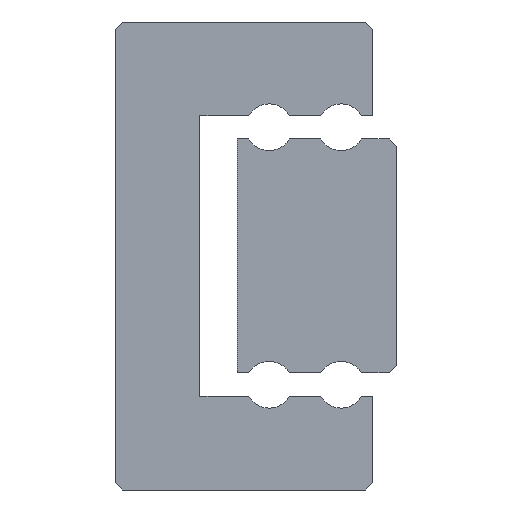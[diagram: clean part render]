
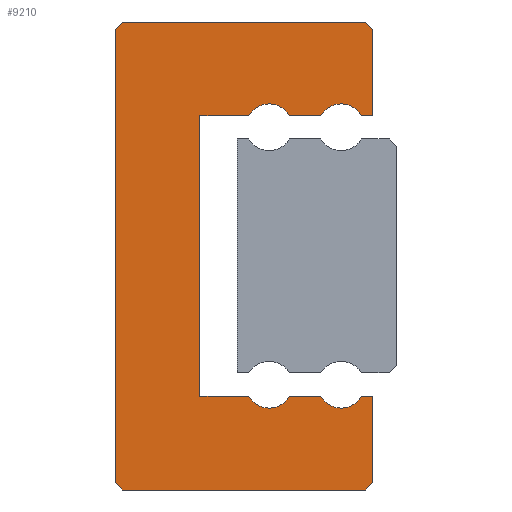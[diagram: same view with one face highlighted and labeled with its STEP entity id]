
A CAD part, left-side view. The second image highlights one B-rep face of the part: STEP entity #9210.
In plain terms, the highlighted planar face has unit normal (-1, 0, 0).
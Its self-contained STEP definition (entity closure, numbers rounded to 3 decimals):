
#294=CIRCLE('',#9994,0.5);
#296=CIRCLE('',#9998,0.5);
#302=CIRCLE('',#10008,0.5);
#304=CIRCLE('',#10012,0.5);
#1538=ORIENTED_EDGE('',*,*,#3866,.F.);
#1539=ORIENTED_EDGE('',*,*,#4314,.F.);
#1540=ORIENTED_EDGE('',*,*,#4311,.F.);
#1541=ORIENTED_EDGE('',*,*,#4304,.F.);
#1542=ORIENTED_EDGE('',*,*,#4301,.F.);
#1543=ORIENTED_EDGE('',*,*,#4298,.F.);
#1544=ORIENTED_EDGE('',*,*,#4295,.F.);
#1545=ORIENTED_EDGE('',*,*,#4292,.F.);
#1546=ORIENTED_EDGE('',*,*,#4289,.T.);
#1547=ORIENTED_EDGE('',*,*,#4286,.F.);
#1548=ORIENTED_EDGE('',*,*,#4283,.T.);
#1549=ORIENTED_EDGE('',*,*,#4280,.F.);
#1550=ORIENTED_EDGE('',*,*,#4277,.F.);
#1551=ORIENTED_EDGE('',*,*,#4270,.F.);
#1552=ORIENTED_EDGE('',*,*,#4267,.T.);
#1553=ORIENTED_EDGE('',*,*,#4264,.F.);
#1554=ORIENTED_EDGE('',*,*,#4261,.T.);
#1555=ORIENTED_EDGE('',*,*,#4258,.F.);
#1556=ORIENTED_EDGE('',*,*,#4255,.F.);
#1557=ORIENTED_EDGE('',*,*,#4252,.F.);
#3866=EDGE_CURVE('',#5284,#5285,#6246,.T.);
#4252=EDGE_CURVE('',#5285,#5670,#6384,.T.);
#4255=EDGE_CURVE('',#5670,#5672,#6387,.T.);
#4258=EDGE_CURVE('',#5672,#5674,#6390,.T.);
#4261=EDGE_CURVE('',#5676,#5674,#294,.T.);
#4264=EDGE_CURVE('',#5676,#5678,#6394,.T.);
#4267=EDGE_CURVE('',#5680,#5678,#296,.T.);
#4270=EDGE_CURVE('',#5680,#5682,#6398,.T.);
#4277=EDGE_CURVE('',#5682,#5688,#6401,.T.);
#4280=EDGE_CURVE('',#5688,#5690,#6404,.T.);
#4283=EDGE_CURVE('',#5692,#5690,#302,.T.);
#4286=EDGE_CURVE('',#5692,#5694,#6408,.T.);
#4289=EDGE_CURVE('',#5696,#5694,#304,.T.);
#4292=EDGE_CURVE('',#5696,#5698,#6412,.T.);
#4295=EDGE_CURVE('',#5698,#5700,#6415,.T.);
#4298=EDGE_CURVE('',#5700,#5702,#6418,.T.);
#4301=EDGE_CURVE('',#5702,#5704,#6421,.T.);
#4304=EDGE_CURVE('',#5704,#5706,#6424,.T.);
#4311=EDGE_CURVE('',#5706,#5712,#6427,.T.);
#4314=EDGE_CURVE('',#5712,#5284,#6430,.T.);
#5284=VERTEX_POINT('',#14021);
#5285=VERTEX_POINT('',#14022);
#5670=VERTEX_POINT('',#14794);
#5672=VERTEX_POINT('',#14800);
#5674=VERTEX_POINT('',#14806);
#5676=VERTEX_POINT('',#14812);
#5678=VERTEX_POINT('',#14818);
#5680=VERTEX_POINT('',#14824);
#5682=VERTEX_POINT('',#14830);
#5688=VERTEX_POINT('',#14844);
#5690=VERTEX_POINT('',#14850);
#5692=VERTEX_POINT('',#14856);
#5694=VERTEX_POINT('',#14862);
#5696=VERTEX_POINT('',#14868);
#5698=VERTEX_POINT('',#14874);
#5700=VERTEX_POINT('',#14880);
#5702=VERTEX_POINT('',#14886);
#5704=VERTEX_POINT('',#14892);
#5706=VERTEX_POINT('',#14898);
#5712=VERTEX_POINT('',#14912);
#6246=LINE('',#14020,#7062);
#6384=LINE('',#14793,#7200);
#6387=LINE('',#14799,#7203);
#6390=LINE('',#14805,#7206);
#6394=LINE('',#14817,#7210);
#6398=LINE('',#14829,#7214);
#6401=LINE('',#14843,#7217);
#6404=LINE('',#14849,#7220);
#6408=LINE('',#14861,#7224);
#6412=LINE('',#14873,#7228);
#6415=LINE('',#14879,#7231);
#6418=LINE('',#14885,#7234);
#6421=LINE('',#14891,#7237);
#6424=LINE('',#14897,#7240);
#6427=LINE('',#14911,#7243);
#6430=LINE('',#14917,#7246);
#7062=VECTOR('',#10941,1000.);
#7200=VECTOR('',#11577,1000.);
#7203=VECTOR('',#11582,1000.);
#7206=VECTOR('',#11587,1000.);
#7210=VECTOR('',#11599,1000.);
#7214=VECTOR('',#11611,1000.);
#7217=VECTOR('',#11624,1000.);
#7220=VECTOR('',#11629,1000.);
#7224=VECTOR('',#11641,1000.);
#7228=VECTOR('',#11653,1000.);
#7231=VECTOR('',#11658,1000.);
#7234=VECTOR('',#11663,1000.);
#7237=VECTOR('',#11668,1000.);
#7240=VECTOR('',#11673,1000.);
#7243=VECTOR('',#11686,1000.);
#7246=VECTOR('',#11691,1000.);
#7918=EDGE_LOOP('',(#1538,#1539,#1540,#1541,#1542,#1543,#1544,#1545,#1546,
#1547,#1548,#1549,#1550,#1551,#1552,#1553,#1554,#1555,#1556,#1557));
#8480=FACE_BOUND('',#7918,.T.);
#8997=PLANE('',#10026);
#9210=ADVANCED_FACE('',(#8480),#8997,.F.);
#9994=AXIS2_PLACEMENT_3D('',#14811,#11592,#11593);
#9998=AXIS2_PLACEMENT_3D('',#14823,#11604,#11605);
#10008=AXIS2_PLACEMENT_3D('',#14855,#11634,#11635);
#10012=AXIS2_PLACEMENT_3D('',#14867,#11646,#11647);
#10026=AXIS2_PLACEMENT_3D('',#14920,#11695,#11696);
#10941=DIRECTION('',(0.,-1.,0.));
#11577=DIRECTION('',(0.,-0.707,-0.707));
#11582=DIRECTION('',(0.,0.,-1.));
#11587=DIRECTION('',(0.,1.,0.));
#11592=DIRECTION('',(1.,0.,0.));
#11593=DIRECTION('',(0.,0.,-1.));
#11599=DIRECTION('',(0.,1.,0.));
#11604=DIRECTION('',(1.,0.,0.));
#11605=DIRECTION('',(0.,0.,-1.));
#11611=DIRECTION('',(0.,1.,0.));
#11624=DIRECTION('',(0.,0.,-1.));
#11629=DIRECTION('',(0.,-1.,0.));
#11634=DIRECTION('',(1.,0.,0.));
#11635=DIRECTION('',(0.,0.,-1.));
#11641=DIRECTION('',(0.,-1.,0.));
#11646=DIRECTION('',(1.,0.,0.));
#11647=DIRECTION('',(0.,0.,-1.));
#11653=DIRECTION('',(0.,-1.,0.));
#11658=DIRECTION('',(0.,0.,-1.));
#11663=DIRECTION('',(0.,0.707,-0.707));
#11668=DIRECTION('',(0.,1.,0.));
#11673=DIRECTION('',(0.,0.707,0.707));
#11686=DIRECTION('',(0.,0.,1.));
#11691=DIRECTION('',(0.,-0.707,0.707));
#11695=DIRECTION('',(1.,0.,0.));
#11696=DIRECTION('',(0.,0.,-1.));
#14020=CARTESIAN_POINT('',(-7.5,5.35,5.));
#14021=CARTESIAN_POINT('',(-7.5,5.35,5.));
#14022=CARTESIAN_POINT('',(-7.5,0.15,5.));
#14793=CARTESIAN_POINT('',(-7.5,0.15,5.));
#14794=CARTESIAN_POINT('',(-7.5,0.,4.85));
#14799=CARTESIAN_POINT('',(-7.5,0.,4.85));
#14800=CARTESIAN_POINT('',(-7.5,0.,3.));
#14805=CARTESIAN_POINT('',(-7.5,0.,3.));
#14806=CARTESIAN_POINT('',(-7.5,0.247,3.));
#14811=CARTESIAN_POINT('',(-7.5,0.68,2.75));
#14812=CARTESIAN_POINT('',(-7.5,1.113,3.));
#14817=CARTESIAN_POINT('',(-7.5,1.113,3.));
#14818=CARTESIAN_POINT('',(-7.5,1.787,3.));
#14823=CARTESIAN_POINT('',(-7.5,2.22,2.75));
#14824=CARTESIAN_POINT('',(-7.5,2.653,3.));
#14829=CARTESIAN_POINT('',(-7.5,2.653,3.));
#14830=CARTESIAN_POINT('',(-7.5,3.7,3.));
#14843=CARTESIAN_POINT('',(-7.5,3.7,3.));
#14844=CARTESIAN_POINT('',(-7.5,3.7,-3.));
#14849=CARTESIAN_POINT('',(-7.5,3.7,-3.));
#14850=CARTESIAN_POINT('',(-7.5,2.653,-3.));
#14855=CARTESIAN_POINT('',(-7.5,2.22,-2.75));
#14856=CARTESIAN_POINT('',(-7.5,1.787,-3.));
#14861=CARTESIAN_POINT('',(-7.5,1.787,-3.));
#14862=CARTESIAN_POINT('',(-7.5,1.113,-3.));
#14867=CARTESIAN_POINT('',(-7.5,0.68,-2.75));
#14868=CARTESIAN_POINT('',(-7.5,0.247,-3.));
#14873=CARTESIAN_POINT('',(-7.5,0.247,-3.));
#14874=CARTESIAN_POINT('',(-7.5,0.,-3.));
#14879=CARTESIAN_POINT('',(-7.5,0.,-3.));
#14880=CARTESIAN_POINT('',(-7.5,0.,-4.85));
#14885=CARTESIAN_POINT('',(-7.5,0.,-4.85));
#14886=CARTESIAN_POINT('',(-7.5,0.15,-5.));
#14891=CARTESIAN_POINT('',(-7.5,0.15,-5.));
#14892=CARTESIAN_POINT('',(-7.5,5.35,-5.));
#14897=CARTESIAN_POINT('',(-7.5,5.35,-5.));
#14898=CARTESIAN_POINT('',(-7.5,5.5,-4.85));
#14911=CARTESIAN_POINT('',(-7.5,5.5,-4.85));
#14912=CARTESIAN_POINT('',(-7.5,5.5,4.85));
#14917=CARTESIAN_POINT('',(-7.5,5.5,4.85));
#14920=CARTESIAN_POINT('',(-7.5,0.68,2.75));
